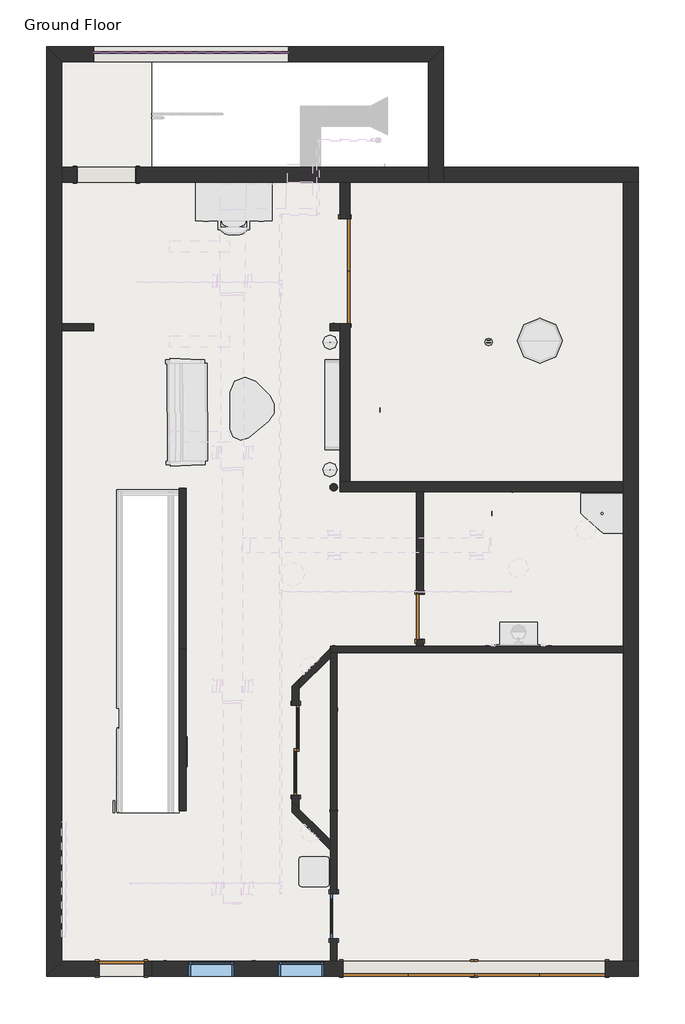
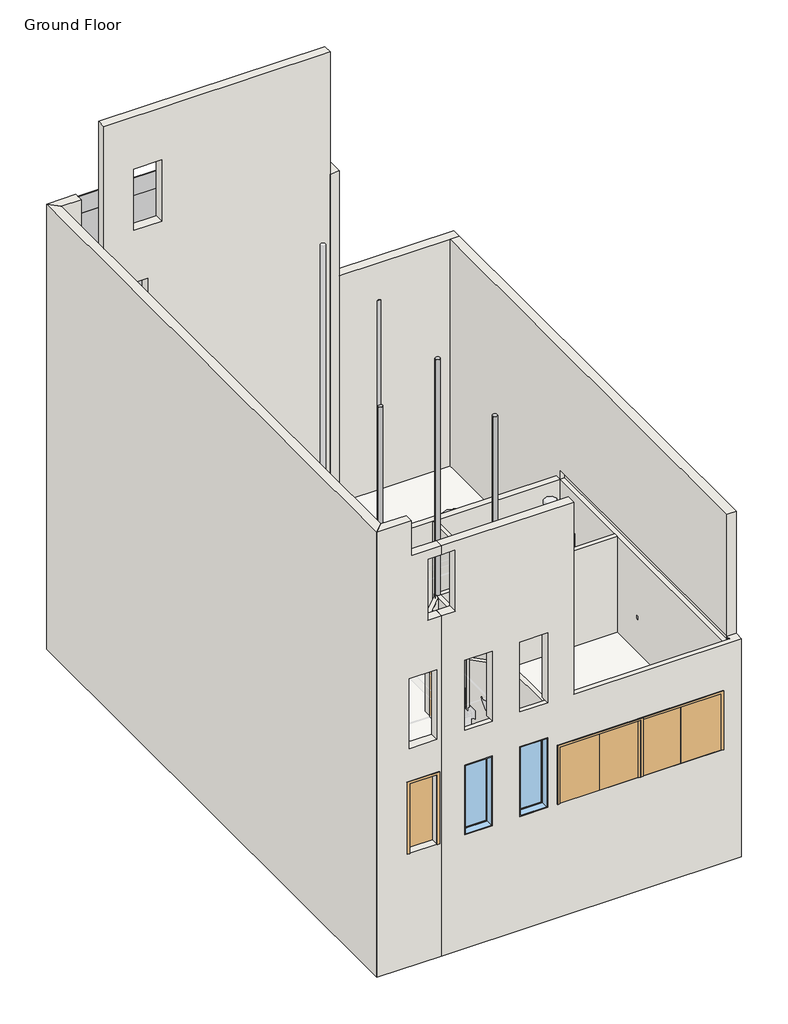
# One storey, part 1 of 4: 21 walls, 12 plates, 6 doors, 3 columns, 3 windows, 1 slab.
"""IFC4 building model written with IfcOpenShell, lengths in millimetres."""

from ifc_helpers import new_model, si_unit, frame, origin, origin_with_axes, place, context, project, spatial, polyline, circle_curve, outline, extrude, faceted_brep, transform, mapped, element, save
from ifc_brep_helpers import plane_surface, cylinder_surface, advanced_brep
from components import double_flush_garage_doors_196828e7, double_flush_garden_door_1ae05451, door_9814c99b, single_flush_front_door_b84d2d09, door_a33c1234, system_panel_system_panel_b21aad5f, system_panel_system_panel_e008ddc8, system_panel_system_panel_63189bcd, system_panel_system_panel_58b53a08, window_9a11fba4, window_57972af0, window_4364fc02

model = new_model("IFC4")

# Units and contexts
model_context = context("Model", 3, world=origin())
ifc_project = project(units=[si_unit("LENGTHUNIT", "METRE", prefix="MILLI")], contexts=[model_context])

# Site, building, storey
site = spatial("IfcSite", under=ifc_project)
building = spatial("IfcBuilding", under=site)
storey = spatial("IfcBuildingStorey", under=building, Name="Ground Floor", Elevation=0.0)

# Columns
placement = place(None, origin())
element("IfcColumn", 1, ObjectType="Round Column : 06\" Diameter", at=placement, inside=storey, context=model_context, shape_type="AdvancedBrep", body=[
    advanced_brep(
    [(1126.1605983, 3000.0810017, 11582.4), (1070.1560388, 3024.609643, 11582.4), (1014.1514793, 3000.0810017, 11582.4), (1146.3560388, 2948.409643, 0.0), (993.9560388, 2948.409643, 0.0), (1070.1560388, 3024.609643, 0.0), (1126.1605983, 3000.0810017, 7924.8), (1146.3560388, 2948.409643, 7924.8), (993.9560388, 2948.409643, 7924.8), (1014.1514793, 3000.0810017, 7924.8)],
    [
        (0, 1, circle_curve(frame((1070.1560388, 2948.409643, 11582.4), z_axis=(0.0, 0.0, 1.0), x_axis=(1.0, 0.0, 0.0)), 76.2)),
        (1, 2, circle_curve(frame((1070.1560388, 2948.409643, 11582.4), z_axis=(0.0, 0.0, 1.0), x_axis=(1.0, 0.0, 0.0)), 76.2)),
        (2, 0),
        (3, 4, circle_curve(frame((1070.1560388, 2948.409643, 0.0), z_axis=(0.0, 0.0, -1.0), x_axis=(1.0, 0.0, 0.0)), 76.2)),
        (4, 5, circle_curve(frame((1070.1560388, 2948.409643, 0.0), z_axis=(0.0, 0.0, -1.0), x_axis=(1.0, 0.0, 0.0)), 76.2)),
        (5, 3, circle_curve(frame((1070.1560388, 2948.409643, 0.0), z_axis=(0.0, 0.0, -1.0), x_axis=(1.0, 0.0, 0.0)), 76.2)),
        (5, 1),
        (0, 6),
        (6, 7, circle_curve(frame((1070.1560388, 2948.409643, 7924.8), z_axis=(0.0, 0.0, -1.0), x_axis=(1.0, 0.0, 0.0)), 76.2)),
        (7, 3),
        (4, 8),
        (8, 9, circle_curve(frame((1070.1560388, 2948.409643, 7924.8), z_axis=(0.0, 0.0, -1.0), x_axis=(1.0, 0.0, 0.0)), 76.2)),
        (9, 2),
        (7, 8, circle_curve(frame((1070.1560388, 2948.409643, 7924.8), z_axis=(0.0, 0.0, -1.0), x_axis=(1.0, 0.0, 0.0)), 76.2)),
        (9, 6),
    ],
    [
        plane_surface(frame((1146.3560388, 2948.409643, 11582.4), z_axis=(0.0, 0.0, 1.0), x_axis=(0.0, 1.0, 0.0))),
        plane_surface(frame((1146.3560388, 2948.409643, 0.0), z_axis=(0.0, 0.0, -1.0), x_axis=(0.0, -1.0, 0.0))),
        cylinder_surface(frame((1070.1560388, 2948.409643, 0.0), z_axis=(0.0, 0.0, 1.0), x_axis=(1.0, 0.0, 0.0)), 76.2),
        plane_surface(frame((-4460.5633563, 3000.0810017, 7924.8), z_axis=(0.0, -1.0, 0.0), x_axis=(-1.0, 0.0, 0.0))),
        plane_surface(frame((-2819.1604947, 2860.3810017, 7924.8), z_axis=(0.0, 0.0, 1.0), x_axis=(0.0, 1.0, 0.0))),
    ],
    [
        (0, [[1, 2, 3]]),
        (1, [[4, 5, 6]]),
        (2, [[-6, 7, -1, 8, 9, 10]]),
        (2, [[-5, 11, 12, 13, -2, -7]]),
        (2, [[-4, -10, 14, -11]]),
        (3, [[15, -8, -3, -13]]),
        (4, [[-15, -12, -14, -9]]),
    ],
),
])
element("IfcColumn", 2, ObjectType="Round Column : 06\" Diameter", at=placement, inside=storey, context=model_context, shape_type="AdvancedBrep", body=[
    advanced_brep(
    [(1146.3560388, -3623.840357, 11582.4), (1070.1560388, -3547.640357, 11582.4), (993.9560388, -3623.840357, 11582.4), (1140.0060388, -3593.3868269, 0.0), (1146.3560388, -3623.840357, 0.0), (1140.0060388, -3654.2938872, 0.0), (1140.0060388, -3623.840357, 0.0), (1140.0060388, -3593.3868269, 3352.8), (1070.1560388, -3547.640357, 3352.8), (1000.3060388, -3593.3868269, 3352.8), (1000.3060388, -3593.3868269, 0.0), (993.9560388, -3623.840357, 0.0), (1000.3060388, -3654.2938872, 0.0), (1000.3060388, -3654.2938872, 3352.8), (1140.0060388, -3654.2938872, 3352.8), (1140.0060388, -3623.840357, 3352.8), (1000.3060388, -3623.840357, 3352.8), (1000.3060388, -3623.840357, 0.0)],
    [
        (0, 1, circle_curve(frame((1070.1560388, -3623.840357, 11582.4), z_axis=(0.0, 0.0, 1.0), x_axis=(1.0, 0.0, 0.0)), 76.2)),
        (1, 2, circle_curve(frame((1070.1560388, -3623.840357, 11582.4), z_axis=(0.0, 0.0, 1.0), x_axis=(1.0, 0.0, 0.0)), 76.2)),
        (2, 0, circle_curve(frame((1070.1560388, -3623.840357, 11582.4), z_axis=(0.0, 0.0, 1.0), x_axis=(1.0, 0.0, 0.0)), 76.2)),
        (3, 4, circle_curve(frame((1070.1560388, -3623.840357, 0.0), z_axis=(0.0, 0.0, -1.0), x_axis=(1.0, 0.0, 0.0)), 76.2)),
        (4, 5, circle_curve(frame((1070.1560388, -3623.840357, 0.0), z_axis=(0.0, 0.0, -1.0), x_axis=(1.0, 0.0, 0.0)), 76.2)),
        (5, 6),
        (6, 3),
        (0, 4),
        (3, 7),
        (7, 8, circle_curve(frame((1070.1560388, -3623.840357, 3352.8), z_axis=(0.0, 0.0, 1.0), x_axis=(1.0, 0.0, 0.0)), 76.2)),
        (8, 1),
        (8, 9, circle_curve(frame((1070.1560388, -3623.840357, 3352.8), z_axis=(0.0, 0.0, 1.0), x_axis=(1.0, 0.0, 0.0)), 76.2)),
        (9, 10),
        (10, 11, circle_curve(frame((1070.1560388, -3623.840357, 0.0), z_axis=(0.0, 0.0, 1.0), x_axis=(1.0, 0.0, 0.0)), 76.2)),
        (11, 2),
        (11, 12, circle_curve(frame((1070.1560388, -3623.840357, 0.0), z_axis=(0.0, 0.0, 1.0), x_axis=(1.0, 0.0, 0.0)), 76.2)),
        (12, 13),
        (13, 14, circle_curve(frame((1070.1560388, -3623.840357, 3352.8), z_axis=(0.0, 0.0, 1.0), x_axis=(1.0, 0.0, 0.0)), 76.2)),
        (14, 5),
        (15, 7),
        (6, 15),
        (9, 16),
        (16, 17),
        (17, 10),
        (15, 16),
        (14, 15),
        (16, 13),
        (12, 17),
    ],
    [
        plane_surface(frame((1146.3560388, -3623.840357, 11582.4), z_axis=(0.0, 0.0, 1.0), x_axis=(0.0, 1.0, 0.0))),
        plane_surface(frame((1146.3560388, -3623.840357, 0.0), z_axis=(0.0, 0.0, -1.0), x_axis=(0.0, -1.0, 0.0))),
        cylinder_surface(frame((1070.1560388, -3623.840357, 0.0), z_axis=(0.0, 0.0, 1.0), x_axis=(1.0, 0.0, 0.0)), 76.2),
        plane_surface(frame((1140.0060388, -3623.840357, 0.0), z_axis=(-1.0, 0.0, 0.0), x_axis=(0.0, 1.0, 0.0))),
        plane_surface(frame((1000.3060388, -3623.840357, 0.0), z_axis=(1.0, 0.0, 0.0), x_axis=(0.0, -1.0, 0.0))),
        plane_surface(frame((-4619.4439612, 11603.459643, 3352.8), z_axis=(0.0, 0.0, -1.0), x_axis=(0.0, 1.0, 0.0))),
        plane_surface(frame((1140.0060388, -5757.440357, 0.0), z_axis=(-1.0, 0.0, 0.0), x_axis=(0.0, 1.0, 0.0))),
        plane_surface(frame((1000.3060388, -5757.440357, 0.0), z_axis=(1.0, 0.0, 0.0), x_axis=(0.0, -1.0, 0.0))),
    ],
    [
        (0, [[1, 2, 3]]),
        (1, [[4, 5, 6, 7]]),
        (2, [[-1, 8, -4, 9, 10, 11]]),
        (2, [[-2, -11, 12, 13, 14, 15]]),
        (2, [[-3, -15, 16, 17, 18, 19, -5, -8]]),
        (3, [[20, -9, -7, 21]]),
        (4, [[22, 23, 24, -13]]),
        (5, [[-20, 25, -22, -12, -10]]),
        (6, [[26, -21, -6, -19]]),
        (7, [[27, -17, 28, -23]]),
        (5, [[-26, -18, -27, -25]]),
        (1, [[-14, -24, -28, -16]]),
    ],
),
])
element("IfcColumn", 3, ObjectType="Round Column : 06\" Diameter", at=placement, inside=storey, context=model_context, shape_type="AdvancedBrep", body=[
    advanced_brep(
    [(1146.3560388, -347.240357, 11582.4), (1070.1560388, -271.040357, 11582.4), (993.9560388, -347.240357, 11582.4), (1039.7025086, -277.390357, 0.0), (1070.1560388, -271.040357, 0.0), (1100.609569, -277.390357, 0.0), (1146.3560388, -347.240357, 3352.8), (1100.609569, -277.390357, 3352.8), (1039.7025086, -277.390357, 3352.8), (1000.3060388, -316.7868269, 3352.8), (1000.3060388, -316.7868269, 0.0), (999.2307324, -319.3828461, 0.0), (999.2307324, -319.3828461, 3352.8), (993.9560388, -347.240357, 3352.8), (1000.3060388, -377.6938872, 3352.8), (1039.7025086, -417.090357, 3352.8), (1100.609569, -417.090357, 3352.8), (1000.3060388, -318.3075397, 3352.8), (1000.3060388, -318.3075397, 0.0)],
    [
        (0, 1, circle_curve(frame((1070.1560388, -347.240357, 11582.4), z_axis=(0.0, 0.0, 1.0), x_axis=(1.0, 0.0, 0.0)), 76.2)),
        (1, 2, circle_curve(frame((1070.1560388, -347.240357, 11582.4), z_axis=(0.0, 0.0, 1.0), x_axis=(1.0, 0.0, 0.0)), 76.2)),
        (2, 0, circle_curve(frame((1070.1560388, -347.240357, 11582.4), z_axis=(0.0, 0.0, 1.0), x_axis=(1.0, 0.0, 0.0)), 76.2)),
        (3, 4, circle_curve(frame((1070.1560388, -347.240357, 0.0), z_axis=(0.0, 0.0, -1.0), x_axis=(1.0, 0.0, 0.0)), 76.2)),
        (4, 5, circle_curve(frame((1070.1560388, -347.240357, 0.0), z_axis=(0.0, 0.0, -1.0), x_axis=(1.0, 0.0, 0.0)), 76.2)),
        (5, 3),
        (0, 6),
        (6, 7, circle_curve(frame((1070.1560388, -347.240357, 3352.8), z_axis=(0.0, 0.0, 1.0), x_axis=(1.0, 0.0, 0.0)), 76.2)),
        (7, 5),
        (4, 1),
        (3, 8),
        (8, 9, circle_curve(frame((1070.1560388, -347.240357, 3352.8), z_axis=(0.0, 0.0, 1.0), x_axis=(1.0, 0.0, 0.0)), 76.2)),
        (9, 10),
        (10, 11, circle_curve(frame((1070.1560388, -347.240357, 0.0), z_axis=(0.0, 0.0, 1.0), x_axis=(1.0, 0.0, 0.0)), 76.2)),
        (11, 12),
        (12, 13, circle_curve(frame((1070.1560388, -347.240357, 3352.8), z_axis=(0.0, 0.0, 1.0), x_axis=(1.0, 0.0, 0.0)), 76.2)),
        (13, 2),
        (13, 14, circle_curve(frame((1070.1560388, -347.240357, 3352.8), z_axis=(0.0, 0.0, 1.0), x_axis=(1.0, 0.0, 0.0)), 76.2)),
        (14, 15, circle_curve(frame((1070.1560388, -347.240357, 3352.8), z_axis=(0.0, 0.0, 1.0), x_axis=(1.0, 0.0, 0.0)), 76.2)),
        (15, 16, circle_curve(frame((1070.1560388, -347.240357, 3352.8), z_axis=(0.0, 0.0, 1.0), x_axis=(1.0, 0.0, 0.0)), 76.2)),
        (16, 6, circle_curve(frame((1070.1560388, -347.240357, 3352.8), z_axis=(0.0, 0.0, 1.0), x_axis=(1.0, 0.0, 0.0)), 76.2)),
        (7, 8),
        (9, 17),
        (17, 18),
        (18, 10),
        (16, 15),
        (14, 17),
        (18, 11),
        (17, 12),
    ],
    [
        plane_surface(frame((1146.3560388, -347.240357, 11582.4), z_axis=(0.0, 0.0, 1.0), x_axis=(0.0, 1.0, 0.0))),
        plane_surface(frame((1146.3560388, -347.240357, 0.0), z_axis=(0.0, 0.0, -1.0), x_axis=(0.0, -1.0, 0.0))),
        cylinder_surface(frame((1070.1560388, -347.240357, 0.0), z_axis=(0.0, 0.0, 1.0), x_axis=(1.0, 0.0, 0.0)), 76.2),
        plane_surface(frame((7115.3560388, -277.390357, 0.0), z_axis=(0.0, -1.0, 0.0), x_axis=(-1.0, 0.0, 0.0))),
        plane_surface(frame((1000.3060388, -3623.840357, 0.0), z_axis=(1.0, 0.0, 0.0), x_axis=(0.0, -1.0, 0.0))),
        plane_surface(frame((-4619.4439612, 11603.459643, 3352.8), z_axis=(0.0, 0.0, -1.0), x_axis=(0.0, 1.0, 0.0))),
        plane_surface(frame((1020.7646301, -297.8489484, 0.0), z_axis=(0.7071067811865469, -0.7071067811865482, 0.0), x_axis=(-0.7071067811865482, -0.7071067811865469, 0.0))),
    ],
    [
        (0, [[1, 2, 3]]),
        (1, [[4, 5, 6]]),
        (2, [[-1, 7, 8, 9, -5, 10]]),
        (2, [[-2, -10, -4, 11, 12, 13, 14, 15, 16, 17]]),
        (2, [[-3, -17, 18, 19, 20, 21, -7]]),
        (3, [[22, -11, -6, -9]]),
        (4, [[-13, 23, 24, 25]]),
        (5, [[-22, -8, -21, 26, -19, 27, -23, -12]]),
        (1, [[-14, -25, 28]]),
        (5, [[-20, -26]]),
        (6, [[29, -15, -28, -24]]),
        (5, [[-29, -27, -18, -16]]),
    ],
),
])

# Doors
double_flush_garage_doors_shape = double_flush_garage_doors_196828e7(model_context)
element("IfcDoor", 4, ObjectType="Double-Flush : Garage Doors", at=placement, inside=storey, context=model_context, shape_type="MappedRepresentation", body=[
    mapped(double_flush_garage_doors_shape, transform((2594.1560388, -6836.940357, 0.0), x_axis=(1.0, 0.0, 0.0), y_axis=(0.0, 1.0, 0.0), z_axis=(0.0, 0.0, 1.0))),
])
element("IfcDoor", 5, ObjectType="Double-Flush : Garage Doors", at=placement, inside=storey, context=model_context, shape_type="MappedRepresentation", body=[
    mapped(double_flush_garage_doors_shape, transform((5261.1560388, -6836.940357, 0.0), x_axis=(1.0, 0.0, 0.0), y_axis=(0.0, 1.0, 0.0), z_axis=(0.0, 0.0, 1.0))),
])
double_flush_garden_door_shape = double_flush_garden_door_1ae05451(model_context)
element("IfcDoor", 6, ObjectType="Double-Flush : Garden Door", at=placement, inside=storey, context=model_context, shape_type="MappedRepresentation", body=[
    mapped(double_flush_garden_door_shape, transform((1298.7560388, 7342.609643, 0.0), x_axis=(0.0, -1.0, 0.0), y_axis=(1.0, 0.0, 0.0), z_axis=(0.0, 0.0, 1.0))),
])
door_shape = door_9814c99b(model_context)
element("IfcDoor", 7, ObjectType="Single-Flush : 36\" x 84\"", at=placement, inside=storey, context=model_context, shape_type="MappedRepresentation", body=[
    mapped(door_shape, transform((2822.7560388, 313.159643, 0.0), x_axis=(0.0, -1.0, 0.0), y_axis=(1.0, 0.0, 0.0), z_axis=(0.0, 0.0, 1.0))),
])
single_flush_front_door_shape = single_flush_front_door_b84d2d09(model_context)
element("IfcDoor", 8, ObjectType="Single-Flush : Front Door", at=placement, inside=storey, context=model_context, shape_type="MappedRepresentation", body=[
    mapped(single_flush_front_door_shape, transform((-3247.8439612, -6836.940357, 0.0), x_axis=(-1.0, 0.0, 0.0), y_axis=(0.0, -1.0, 0.0), z_axis=(0.0, 0.0, 1.0))),
])
door_2_shape = door_a33c1234(model_context)
element("IfcDoor", 9, ObjectType="Sliding-2 panel : 72\" x 84\"", at=placement, inside=storey, context=model_context, shape_type="MappedRepresentation", body=[
    mapped(door_2_shape, transform((168.4560388, -2392.1148371, 0.0), x_axis=(0.0, -1.0, 0.0), y_axis=(1.0, 0.0, 0.0), z_axis=(0.0, 0.0, 1.0))),
])

# Plates
system_panel_system_panel_shape = system_panel_system_panel_b21aad5f(model_context)
element("IfcPlate", 10, ObjectType="System Panel : System Panel", at=placement, inside=storey, context=model_context, shape_type="MappedRepresentation", body=[
    mapped(system_panel_system_panel_shape, transform((-2893.6569983, 11755.859643, 0.0), x_axis=(1.0, 0.0, 0.0), y_axis=(0.0, 1.0, 0.0), z_axis=(0.0, 0.0, 1.0))),
])
element("IfcPlate", 11, ObjectType="System Panel : System Panel", at=placement, inside=storey, context=model_context, shape_type="MappedRepresentation", body=[
    mapped(system_panel_system_panel_shape, transform((-1064.8569983, 11755.859643, 0.0), x_axis=(1.0, 0.0, 0.0), y_axis=(0.0, 1.0, 0.0), z_axis=(0.0, 0.0, 1.0))),
])
element("IfcPlate", 12, ObjectType="System Panel : System Panel", at=placement, inside=storey, context=model_context, shape_type="MappedRepresentation", body=[
    mapped(system_panel_system_panel_shape, transform((-2893.6569983, 11755.859643, 3657.6), x_axis=(1.0, 0.0, 0.0), y_axis=(0.0, 1.0, 0.0), z_axis=(0.0, 0.0, 1.0))),
])
element("IfcPlate", 13, ObjectType="System Panel : System Panel", at=placement, inside=storey, context=model_context, shape_type="MappedRepresentation", body=[
    mapped(system_panel_system_panel_shape, transform((-1064.8569983, 11755.859643, 3657.6), x_axis=(1.0, 0.0, 0.0), y_axis=(0.0, 1.0, 0.0), z_axis=(0.0, 0.0, 1.0))),
])
element("IfcPlate", 14, ObjectType="System Panel : System Panel", at=placement, inside=storey, context=model_context, shape_type="MappedRepresentation", body=[
    mapped(system_panel_system_panel_shape, transform((-2893.6569983, 11755.859643, 7315.2), x_axis=(1.0, 0.0, 0.0), y_axis=(0.0, 1.0, 0.0), z_axis=(0.0, 0.0, 1.0))),
])
element("IfcPlate", 15, ObjectType="System Panel : System Panel", at=placement, inside=storey, context=model_context, shape_type="MappedRepresentation", body=[
    mapped(system_panel_system_panel_shape, transform((-1064.8569983, 11755.859643, 7315.2), x_axis=(1.0, 0.0, 0.0), y_axis=(0.0, 1.0, 0.0), z_axis=(0.0, 0.0, 1.0))),
])
system_panel_system_panel_2_shape = system_panel_system_panel_e008ddc8(model_context)
element("IfcPlate", 16, ObjectType="System Panel : System Panel", at=placement, inside=storey, context=model_context, shape_type="MappedRepresentation", body=[
    mapped(system_panel_system_panel_2_shape, transform((1.9430017, 11755.859643, 0.0), x_axis=(1.0, 0.0, 0.0), y_axis=(0.0, 1.0, 0.0), z_axis=(0.0, 0.0, 1.0))),
])
element("IfcPlate", 17, ObjectType="System Panel : System Panel", at=placement, inside=storey, context=model_context, shape_type="MappedRepresentation", body=[
    mapped(system_panel_system_panel_2_shape, transform((1.9430017, 11755.859643, 3657.6), x_axis=(1.0, 0.0, 0.0), y_axis=(0.0, 1.0, 0.0), z_axis=(0.0, 0.0, 1.0))),
])
element("IfcPlate", 18, ObjectType="System Panel : System Panel", at=placement, inside=storey, context=model_context, shape_type="MappedRepresentation", body=[
    mapped(system_panel_system_panel_2_shape, transform((1.9430017, 11755.859643, 7315.2), x_axis=(1.0, 0.0, 0.0), y_axis=(0.0, 1.0, 0.0), z_axis=(0.0, 0.0, 1.0))),
])
system_panel_system_panel_3_shape = system_panel_system_panel_63189bcd(model_context)
element("IfcPlate", 19, ObjectType="System Panel : System Panel", at=placement, inside=storey, context=model_context, shape_type="MappedRepresentation", body=[
    mapped(system_panel_system_panel_3_shape, transform((-2893.6569983, 11755.859643, 10972.8), x_axis=(1.0, 0.0, 0.0), y_axis=(0.0, 1.0, 0.0), z_axis=(0.0, 0.0, 1.0))),
])
element("IfcPlate", 20, ObjectType="System Panel : System Panel", at=placement, inside=storey, context=model_context, shape_type="MappedRepresentation", body=[
    mapped(system_panel_system_panel_3_shape, transform((-1064.8569983, 11755.859643, 10972.8), x_axis=(1.0, 0.0, 0.0), y_axis=(0.0, 1.0, 0.0), z_axis=(0.0, 0.0, 1.0))),
])
system_panel_system_panel_4_shape = system_panel_system_panel_58b53a08(model_context)
element("IfcPlate", 21, ObjectType="System Panel : System Panel", at=placement, inside=storey, context=model_context, shape_type="MappedRepresentation", body=[
    mapped(system_panel_system_panel_4_shape, transform((1.9430017, 11755.859643, 10972.8), x_axis=(1.0, 0.0, 0.0), y_axis=(0.0, 1.0, 0.0), z_axis=(0.0, 0.0, 1.0))),
])

# Slab
element("IfcSlab", 22, ObjectType="Generic - 12\"", at=placement, inside=storey, context=model_context, shape_type="SweptSolid", body=[
    extrude(outline(polyline([(-4467.0439612, 11603.459643), (-2631.8939612, 11603.459643), (-2631.8939612, 9152.359643), (7115.3560388, 9152.359643), (7115.3560388, -6684.540357), (-2638.2439612, -6684.540357), (-4467.0439612, -6684.540357), (-4467.0439612, 11603.459643)]), holes=[polyline([(-2073.0939612, -3668.290357), (-2073.0939612, 2859.509643), (-3298.6439612, 2859.509643), (-3298.6439612, -3668.290357), (-2073.0939612, -3668.290357)])]), frame((0.0, 0.0, -304.8), z_axis=(0.0, 0.0, 1.0), x_axis=(1.0, 0.0, 0.0)), (0.0, 0.0, 1.0), 304.8),
])

# Walls
element("IfcWall", 23, ObjectType="Cast Concrete Wall 12\"", at=placement, inside=storey, context=model_context, shape_type="Brep", body=[
    faceted_brep([(7267.7560388, -6684.540357, -3962.4), (6962.9560388, -6684.540357, -3962.4), (-2638.2439612, -6684.540357, -3962.4), (-2638.2439612, -6684.540357, 3352.8), (1000.3060388, -6684.540357, 3352.8), (1140.0060388, -6684.540357, 3352.8), (6962.9560388, -6684.540357, 3352.8), (6962.9560388, -6684.540357, 3657.6), (7267.7560388, -6684.540357, 3657.6), (1260.6560388, -6684.540357, 1981.2), (1260.6560388, -6684.540357, 0.0), (6594.6560388, -6684.540357, 0.0), (6594.6560388, -6684.540357, 1981.2), (-47.4439612, -6684.540357, 2438.4), (-47.4439612, -6684.540357, 0.0), (866.9560388, -6684.540357, 0.0), (866.9560388, -6684.540357, 2438.4), (-961.8439612, -6684.540357, 0.0), (-961.8439612, -6684.540357, 2438.4), (-1876.2439612, -6684.540357, 2438.4), (-1876.2439612, -6684.540357, 0.0), (-2638.2439612, -6684.540357, 10363.2), (1527.3560388, -6684.540357, 10363.2), (1730.5560388, -6684.540357, 10363.2), (1730.5560388, -6684.540357, 7924.8), (1730.5560388, -6684.540357, 3657.6), (1527.3560388, -6684.540357, 3657.6), (866.9560388, -6684.540357, 3657.6), (866.9560388, -6684.540357, 6096.0), (-47.4439612, -6684.540357, 6096.0), (-47.4439612, -6684.540357, 3657.6), (-961.8439612, -6684.540357, 3657.6), (-961.8439612, -6684.540357, 6096.0), (-1876.2439612, -6684.540357, 6096.0), (-1876.2439612, -6684.540357, 3657.6), (-2638.2439612, -6684.540357, 3657.6), (-2638.2439612, -6684.540357, 7924.8), (-2181.0439612, -6684.540357, 7924.8), (-2181.0439612, -6684.540357, 10058.4), (-2638.2439612, -6684.540357, 10058.4), (-2638.2439612, -6989.340357, -3962.4), (7267.7560388, -6989.340357, -3962.4), (7267.7560388, -6989.340357, 3657.6), (1730.5560388, -6989.340357, 3657.6), (1730.5560388, -6989.340357, 10363.2), (-2638.2439612, -6989.340357, 10363.2), (-2638.2439612, -6989.340357, 10058.4), (-2181.0439612, -6989.340357, 10058.4), (-2181.0439612, -6989.340357, 7924.8), (-2638.2439612, -6989.340357, 7924.8), (1260.6560388, -6989.340357, 0.0), (1260.6560388, -6989.340357, 1981.2), (6594.6560388, -6989.340357, 1981.2), (6594.6560388, -6989.340357, 0.0), (-47.4439612, -6989.340357, 0.0), (-47.4439612, -6989.340357, 2438.4), (866.9560388, -6989.340357, 2438.4), (866.9560388, -6989.340357, 0.0), (-961.8439612, -6989.340357, 2438.4), (-961.8439612, -6989.340357, 0.0), (-1876.2439612, -6989.340357, 0.0), (-1876.2439612, -6989.340357, 2438.4), (-961.8439612, -6989.340357, 6096.0), (-961.8439612, -6989.340357, 3657.6), (-1876.2439612, -6989.340357, 3657.6), (-1876.2439612, -6989.340357, 6096.0), (-47.4439612, -6989.340357, 3657.6), (-47.4439612, -6989.340357, 6096.0), (866.9560388, -6989.340357, 6096.0), (866.9560388, -6989.340357, 3657.6), (-2638.2439612, -6836.940357, 3657.6), (-2638.2439612, -6836.940357, 3352.8), (6962.9560388, -6741.690357, 3657.6), (6962.9560388, -6836.940357, 3657.6), (1730.5560388, -6836.940357, 3657.6), (-961.8439612, -6836.940357, 3657.6), (-1876.2439612, -6836.940357, 3657.6), (-47.4439612, -6836.940357, 3657.6), (866.9560388, -6836.940357, 3657.6), (6962.9560388, -6836.940357, 3352.8), (6962.9560388, -6741.690357, 3352.8), (1559.1060388, -6836.940357, 3352.8), (1559.1060388, -6836.940357, 3657.6)], [[[0, 1, 2, 3, 4, 5, 6, 7, 8], [9, 10, 11, 12], [13, 14, 15, 16], [17, 18, 19, 20]], [[21, 22, 23, 24, 25, 26, 27, 28, 29, 30, 31, 32, 33, 34, 35, 36, 37, 38, 39]], [[40, 41, 42, 43, 44, 45, 46, 47, 48, 49], [50, 51, 52, 53], [54, 55, 56, 57], [58, 59, 60, 61], [62, 63, 64, 65], [66, 67, 68, 69]], [[0, 8, 42, 41]], [[2, 1, 0, 41, 40]], [[2, 40, 49, 36, 35, 70, 71, 3]], [[45, 21, 39, 46]], [[23, 22, 21, 45, 44]], [[43, 42, 8, 7, 72, 73, 74]], [[23, 44, 43, 74, 25, 24]], [[51, 9, 12, 52]], [[10, 9, 51, 50]], [[10, 50, 53, 11]], [[11, 53, 52, 12]], [[48, 37, 36, 49]], [[38, 47, 46, 39]], [[47, 38, 37, 48]], [[14, 13, 55, 54]], [[15, 14, 54, 57]], [[16, 15, 57, 56]], [[13, 16, 56, 55]], [[59, 58, 18, 17]], [[60, 59, 17, 20]], [[61, 60, 20, 19]], [[58, 61, 19, 18]], [[63, 62, 32, 31, 75]], [[64, 63, 75, 76]], [[65, 64, 76, 34, 33]], [[62, 65, 33, 32]], [[30, 29, 67, 66, 77]], [[66, 69, 78, 77]], [[28, 27, 78, 69, 68]], [[29, 28, 68, 67]], [[79, 80, 6, 5, 4, 3, 71, 81]], [[74, 82, 78, 27, 26, 25]], [[77, 75, 31, 30]], [[76, 70, 35, 34]], [[80, 72, 7, 6]], [[80, 79, 73, 72]], [[79, 81, 82, 74, 73]], [[82, 81, 71, 70, 76, 75, 77, 78]]]),
])
element("IfcWall", 24, ObjectType="Cast Concrete Wall 12\"", at=placement, inside=storey, context=model_context, shape_type="Brep", body=[
    faceted_brep([(-4467.0439612, 11603.459643, -3962.4), (-4467.0439612, -6684.540357, -3962.4), (-4771.8439612, -6989.340357, -3962.4), (-4771.8439612, 11908.259643, -3962.4), (-4467.0439612, -6684.540357, 11582.4), (-4467.0439612, -38.7325454, 11582.4), (-4467.0439612, 100.9674546, 11582.4), (-4467.0439612, 11603.459643, 11582.4), (-4771.8439612, 11908.259643, 11582.4), (-4771.8439612, -6989.340357, 11582.4)], [[[0, 1, 2, 3]], [[4, 5, 6, 7, 8, 9]], [[1, 0, 7, 6, 5, 4]], [[2, 9, 8, 3]], [[1, 4, 9, 2]], [[7, 0, 3, 8]]]),
])
element("IfcWall", 25, ObjectType="Cast Concrete Wall 12\"", at=placement, inside=storey, context=model_context, shape_type="Brep", body=[
    faceted_brep([(-4467.0439612, 11603.459643, -3962.4), (3000.5560388, 11603.459643, -3962.4), (3000.5560388, 11603.459643, 11582.4), (1089.2060388, 11603.459643, 11582.4), (949.5060388, 11603.459643, 11582.4), (154.3430017, 11603.459643, 11582.4), (154.3430017, 11603.459643, 0.0), (-3808.0569983, 11603.459643, 0.0), (-3808.0569983, 11603.459643, 11582.4), (-4467.0439612, 11603.459643, 11582.4), (3305.3560388, 11908.259643, -3962.4), (-4771.8439612, 11908.259643, -3962.4), (-4771.8439612, 11908.259643, 11582.4), (-3808.0569983, 11908.259643, 11582.4), (-3808.0569983, 11908.259643, 0.0), (154.3430017, 11908.259643, 0.0), (154.3430017, 11908.259643, 11582.4), (3305.3560388, 11908.259643, 11582.4)], [[[0, 1, 2, 3, 4, 5, 6, 7, 8, 9]], [[10, 11, 12, 13, 14, 15, 16, 17]], [[1, 0, 11, 10]], [[2, 17, 16, 5, 4, 3]], [[12, 9, 8, 13]], [[2, 1, 10, 17]], [[0, 9, 12, 11]], [[7, 14, 13, 8]], [[15, 6, 5, 16]], [[14, 7, 6, 15]]]),
])
element("IfcWall", 26, ObjectType="Cast Concrete Wall 12\"", at=placement, inside=storey, context=model_context, shape_type="Brep", body=[
    faceted_brep([(3000.5560388, 11603.459643, -3962.4), (3000.5560388, 9152.359643, -3962.4), (3000.5560388, 9152.359643, -304.8), (3000.5560388, 9152.359643, 11582.4), (3000.5560388, 11603.459643, 11582.4), (3305.3560388, 11908.259643, -3962.4), (3305.3560388, 11908.259643, 11582.4), (3305.3560388, 9152.359643, 11582.4), (3305.3560388, 9152.359643, 7924.8), (3305.3560388, 9152.359643, -3962.4), (3305.3560388, 9457.159643, -3962.4)], [[[0, 1, 2, 3, 4]], [[5, 6, 7, 8, 9, 10]], [[1, 0, 5, 10, 9]], [[4, 3, 7, 6]], [[1, 9, 8, 7, 3, 2]], [[0, 4, 6, 5]]]),
])
element("IfcWall", 27, ObjectType="Cast Concrete Wall 12\"", at=placement, inside=storey, context=model_context, shape_type="Brep", body=[
    faceted_brep([(3305.3560388, 9152.359643, 7924.8), (3305.3560388, 9152.359643, -3962.4), (6962.9560388, 9152.359643, -3962.4), (7267.7560388, 9152.359643, -3962.4), (7267.7560388, 9152.359643, 7924.8), (6962.9560388, 9152.359643, 7924.8), (3305.3560388, 9457.159643, -3962.4), (3305.3560388, 9457.159643, 7924.8), (7267.7560388, 9457.159643, 7924.8), (7267.7560388, 9457.159643, -3962.4)], [[[0, 1, 2, 3, 4, 5]], [[6, 7, 8, 9]], [[3, 2, 1, 6, 9]], [[0, 5, 4, 8, 7]], [[4, 3, 9, 8]], [[0, 7, 6, 1]]]),
])
element("IfcWall", 28, ObjectType="Cast Concrete Wall 12\"", at=placement, inside=storey, context=model_context, shape_type="Brep", body=[
    faceted_brep([(6962.9560388, 9152.359643, -3962.4), (6962.9560388, -6684.540357, -3962.4), (6962.9560388, -6684.540357, 3352.8), (6962.9560388, -6684.540357, 3657.6), (6962.9560388, -6684.540357, 7924.8), (6962.9560388, 9152.359643, 7924.8), (6962.9560388, -6659.140357, 3352.8), (6962.9560388, -417.090357, 3352.8), (6962.9560388, -277.390357, 3352.8), (6962.9560388, 2859.509643, 3352.8), (6962.9560388, 2859.509643, 3657.6), (6962.9560388, -6659.140357, 3657.6), (7267.7560388, -6684.540357, -3962.4), (7267.7560388, 9152.359643, -3962.4), (7267.7560388, 9152.359643, 7924.8), (7267.7560388, -6684.540357, 7924.8), (7267.7560388, -6684.540357, 3657.6), (7115.3560388, -6659.140357, 3352.8), (7115.3560388, 2859.509643, 3352.8), (7115.3560388, -6659.140357, 3657.6), (7115.3560388, 2859.509643, 3657.6)], [[[0, 1, 2, 3, 4, 5], [6, 7, 8, 9, 10, 11]], [[12, 13, 14, 15, 16]], [[1, 0, 13, 12]], [[5, 4, 15, 14]], [[1, 12, 16, 15, 4, 3, 2]], [[0, 5, 14, 13]], [[17, 18, 9, 8, 7, 6]], [[19, 11, 10, 20]], [[18, 20, 10, 9]], [[18, 17, 19, 20]], [[17, 6, 11, 19]]]),
])
element("IfcWall", 29, ObjectType="Cast Concrete Wall 12\"", at=placement, inside=storey, context=model_context, shape_type="Brep", body=[
    faceted_brep([(-4467.0439612, 9457.159643, -304.8), (3000.5560388, 9457.159643, -304.8), (3000.5560388, 9152.359643, -304.8), (-4467.0439612, 9152.359643, -304.8), (3000.5560388, 9457.159643, 15849.6), (-4467.0439612, 9457.159643, 15849.6), (-4467.0439612, 9152.359643, 15849.6), (3000.5560388, 9152.359643, 15849.6), (-4467.0439612, 9457.159643, 11277.6), (3000.5560388, 9457.159643, 11277.6), (-4241.5604947, 9457.159643, 10058.4), (-4241.5604947, 9457.159643, 7924.8), (-3022.3604947, 9457.159643, 7924.8), (-3022.3604947, 9457.159643, 10058.4), (-4162.2439612, 9457.159643, 5791.2), (-4162.2439612, 9457.159643, 3657.6), (-2943.0439612, 9457.159643, 3657.6), (-2943.0439612, 9457.159643, 5791.2), (-2943.0439612, 9457.159643, 0.0), (-2943.0439612, 9457.159643, 2133.6), (-4162.2439612, 9457.159643, 2133.6), (-4162.2439612, 9457.159643, 0.0), (3000.5560388, 9457.159643, 11582.4), (-4467.0439612, 9457.159643, 11582.4), (-3476.4439612, 9457.159643, 11887.2), (-2562.0439612, 9457.159643, 11887.2), (-2562.0439612, 9457.159643, 14020.8), (-3476.4439612, 9457.159643, 14020.8), (3000.5560388, 9152.359643, 11582.4), (-4467.0439612, 9152.359643, 11582.4), (-2562.0439612, 9152.359643, 11887.2), (-3476.4439612, 9152.359643, 11887.2), (-3476.4439612, 9152.359643, 14020.8), (-2562.0439612, 9152.359643, 14020.8), (-4241.5604947, 9152.359643, 7924.8), (-4241.5604947, 9152.359643, 10058.4), (-3022.3604947, 9152.359643, 10058.4), (-3022.3604947, 9152.359643, 7924.8), (-4162.2439612, 9152.359643, 3657.6), (-4162.2439612, 9152.359643, 5791.2), (-2943.0439612, 9152.359643, 5791.2), (-2943.0439612, 9152.359643, 3657.6), (-2943.0439612, 9152.359643, 2133.6), (-2943.0439612, 9152.359643, 0.0), (-4162.2439612, 9152.359643, 0.0), (-4162.2439612, 9152.359643, 2133.6), (3000.5560388, 9304.759643, 11277.6), (3000.5560388, 9304.759643, 11582.4), (-4467.0439612, 9304.759643, 11582.4), (-4467.0439612, 9304.759643, 11277.6)], [[[0, 1, 2, 3]], [[4, 5, 6, 7]], [[1, 0, 8, 9], [10, 11, 12, 13], [14, 15, 16, 17], [18, 19, 20, 21]], [[5, 4, 22, 23], [24, 25, 26, 27]], [[3, 2, 28, 7, 6, 29], [30, 31, 32, 33], [34, 35, 36, 37], [38, 39, 40, 41], [42, 43, 44, 45]], [[31, 30, 25, 24]], [[32, 31, 24, 27]], [[33, 32, 27, 26]], [[30, 33, 26, 25]], [[2, 1, 9, 46, 47, 22, 4, 7, 28]], [[0, 3, 29, 6, 5, 23, 48, 49, 8]], [[11, 10, 35, 34]], [[12, 11, 34, 37]], [[13, 12, 37, 36]], [[10, 13, 36, 35]], [[15, 14, 39, 38]], [[16, 15, 38, 41]], [[17, 16, 41, 40]], [[14, 17, 40, 39]], [[43, 42, 19, 18]], [[44, 43, 18, 21]], [[45, 44, 21, 20]], [[42, 45, 20, 19]], [[49, 46, 9, 8]], [[47, 48, 23, 22]], [[46, 49, 48, 47]]]),
])
element("IfcWall", 30, ObjectType="Cast Concrete Wall 12\"", at=placement, inside=storey, context=model_context, shape_type="Brep", body=[
    faceted_brep([(-2638.2439612, -6684.540357, -3962.4), (-4467.0439612, -6684.540357, -3962.4), (-4467.0439612, -6684.540357, 11582.4), (-3628.8439612, -6684.540357, 11582.4), (-3628.8439612, -6684.540357, 10363.2), (-2638.2439612, -6684.540357, 10363.2), (-2638.2439612, -6684.540357, 10058.4), (-3095.4439612, -6684.540357, 10058.4), (-3095.4439612, -6684.540357, 7924.8), (-2638.2439612, -6684.540357, 7924.8), (-2638.2439612, -6684.540357, 3657.6), (-2638.2439612, -6684.540357, 3352.8), (-3705.0439612, -6684.540357, 3657.6), (-2790.6439612, -6684.540357, 3657.6), (-2790.6439612, -6684.540357, 6096.0), (-3705.0439612, -6684.540357, 6096.0), (-3705.0439612, -6684.540357, 0.0), (-2790.6439612, -6684.540357, 0.0), (-2790.6439612, -6684.540357, 2438.4), (-3705.0439612, -6684.540357, 2438.4), (-4771.8439612, -6989.340357, -3962.4), (-2638.2439612, -6989.340357, -3962.4), (-2638.2439612, -6989.340357, 7924.8), (-3095.4439612, -6989.340357, 7924.8), (-3095.4439612, -6989.340357, 10058.4), (-2638.2439612, -6989.340357, 10058.4), (-2638.2439612, -6989.340357, 10363.2), (-3628.8439612, -6989.340357, 10363.2), (-3628.8439612, -6989.340357, 11582.4), (-4771.8439612, -6989.340357, 11582.4), (-2790.6439612, -6989.340357, 3657.6), (-3705.0439612, -6989.340357, 3657.6), (-3705.0439612, -6989.340357, 6096.0), (-2790.6439612, -6989.340357, 6096.0), (-2790.6439612, -6989.340357, 0.0), (-3705.0439612, -6989.340357, 0.0), (-3705.0439612, -6989.340357, 2438.4), (-2790.6439612, -6989.340357, 2438.4)], [[[0, 1, 2, 3, 4, 5, 6, 7, 8, 9, 10, 11], [12, 13, 14, 15], [16, 17, 18, 19]], [[20, 21, 22, 23, 24, 25, 26, 27, 28, 29], [30, 31, 32, 33], [34, 35, 36, 37]], [[2, 1, 20, 29]], [[1, 0, 21, 20]], [[3, 2, 29, 28]], [[21, 0, 11, 10, 9, 22]], [[5, 26, 25, 6]], [[4, 3, 28, 27]], [[5, 4, 27, 26]], [[8, 23, 22, 9]], [[23, 8, 7, 24]], [[24, 7, 6, 25]], [[13, 30, 33, 14]], [[30, 13, 12, 31]], [[31, 12, 15, 32]], [[32, 15, 14, 33]], [[34, 17, 16, 35]], [[35, 16, 19, 36]], [[36, 19, 18, 37]], [[17, 34, 37, 18]]]),
])
element("IfcWall", 31, ObjectType="Generic - 8\"", at=placement, inside=storey, context=model_context, shape_type="Brep", body=[
    faceted_brep([(1197.1560388, 3062.709643, 0.0), (1197.1560388, 6136.109643, 0.0), (1197.1560388, 6275.809643, 0.0), (1400.3560388, 6275.809643, 0.0), (1400.3560388, 3062.709643, 0.0), (1197.1560388, 8409.409643, 0.0), (1197.1560388, 9152.359643, 0.0), (1400.3560388, 9152.359643, 0.0), (1400.3560388, 8409.409643, 0.0), (1197.1560388, 6275.809643, 1981.2), (1197.1560388, 3062.709643, 3352.8), (1197.1560388, 6136.109643, 3352.8), (1197.1560388, 6275.809643, 3352.8), (1197.1560388, 9152.359643, 3352.8), (1197.1560388, 8409.409643, 1981.2), (1400.3560388, 6275.809643, 1981.2), (1400.3560388, 8409.409643, 1981.2), (1400.3560388, 9152.359643, 3352.8), (1400.3560388, 3062.709643, 3352.8)], [[[0, 1, 2, 3, 4]], [[5, 6, 7, 8]], [[9, 2, 1, 0, 10, 11, 12, 13, 6, 5, 14]], [[4, 3, 15, 16, 8, 7, 17, 18]], [[10, 0, 4, 18]], [[13, 12, 11, 10, 18, 17]], [[6, 13, 17, 7]], [[15, 3, 2, 9]], [[16, 15, 9, 14]], [[8, 16, 14, 5]]]),
])
element("IfcWall", 32, ObjectType="Generic - 8\"", at=placement, inside=storey, context=model_context, shape_type="Brep", body=[
    faceted_brep([(1197.1560388, 2859.509643, 0.0), (2752.9060388, 2859.509643, 0.0), (2892.6060388, 2859.509643, 0.0), (6962.9560388, 2859.509643, 0.0), (6962.9560388, 2859.509643, 3352.8), (2892.6060388, 2859.509643, 3352.8), (2752.9060388, 2859.509643, 3352.8), (1559.1060388, 2859.509643, 3352.8), (1197.1560388, 2859.509643, 3352.8), (1197.1560388, 3062.709643, 0.0), (1197.1560388, 3062.709643, 3352.8), (1400.3560388, 3062.709643, 3352.8), (1559.1060388, 3062.709643, 3352.8), (6962.9560388, 3062.709643, 3352.8), (6962.9560388, 3062.709643, 0.0), (1400.3560388, 3062.709643, 0.0)], [[[0, 1, 2, 3, 4, 5, 6, 7, 8]], [[9, 10, 11, 12, 13, 14, 15]], [[3, 2, 1, 0, 9, 15, 14]], [[0, 8, 10, 9]], [[4, 3, 14, 13]], [[7, 6, 5, 4, 13, 12]], [[8, 7, 12, 11, 10]]]),
])
element("IfcWall", 33, ObjectType="Interior - 5 1/2\" Partition (1-hr)", at=placement, inside=storey, context=model_context, shape_type="Brep", body=[
    faceted_brep([(1140.0060388, -3623.840357, 0.0), (1140.0060388, -3593.3868269, 0.0), (1140.0060388, -417.090357, 0.0), (1140.0060388, -417.090357, 3352.8), (1140.0060388, -3593.3868269, 3352.8), (1140.0060388, -3623.840357, 3352.8), (1000.3060388, -3623.840357, 0.0), (1000.3060388, -3623.840357, 3352.8), (1000.3060388, -3593.3868269, 3352.8), (1000.3060388, -515.8731744, 3352.8), (1000.3060388, -417.090357, 3352.8), (1000.3060388, -417.090357, 0.0), (1000.3060388, -515.8731744, 0.0), (1000.3060388, -3593.3868269, 0.0)], [[[0, 1, 2, 3, 4, 5]], [[6, 7, 8, 9, 10, 11, 12, 13]], [[2, 1, 0, 6, 13, 12, 11]], [[0, 5, 7, 6]], [[3, 2, 11, 10]], [[5, 4, 3, 10, 9, 8, 7]]]),
])
element("IfcWall", 34, ObjectType="Interior - 5 1/2\" Partition (1-hr)", at=placement, inside=storey, context=model_context, shape_type="Brep", body=[
    faceted_brep([(993.9560388, 6136.109643, 0.0), (1039.7025086, 6136.109643, 0.0), (1100.609569, 6136.109643, 0.0), (1197.1560388, 6136.109643, 0.0), (1197.1560388, 6136.109643, 3352.8), (1100.609569, 6136.109643, 3352.8), (1039.7025086, 6136.109643, 3352.8), (993.9560388, 6136.109643, 3352.8), (993.9560388, 6275.809643, 0.0), (993.9560388, 6275.809643, 3352.8), (1039.7025086, 6275.809643, 3352.8), (1100.609569, 6275.809643, 3352.8), (1197.1560388, 6275.809643, 3352.8), (1197.1560388, 6275.809643, 0.0), (1100.609569, 6275.809643, 0.0), (1039.7025086, 6275.809643, 0.0)], [[[0, 1, 2, 3, 4, 5, 6, 7]], [[8, 9, 10, 11, 12, 13, 14, 15]], [[3, 2, 1, 0, 8, 15, 14, 13]], [[0, 7, 9, 8]], [[4, 3, 13, 12]], [[7, 6, 5, 4, 12, 11, 10, 9]]]),
])
element("IfcWall", 35, ObjectType="Interior - 5 1/2\" Partition (1-hr)", at=placement, inside=storey, context=model_context, shape_type="SweptSolid", body=[
    extrude(outline(polyline([(-4467.0439612, 6272.5766583), (-3808.0569983, 6272.5766583), (-3808.0569983, 6132.8766583), (-4467.0439612, 6132.8766583), (-4467.0439612, 6272.5766583)])), origin_with_axes(), (0.0, 0.0, 1.0), 3352.8),
])
element("IfcWall", 36, ObjectType="Interior - 5 1/2\" Partition (1-hr)", at=placement, inside=storey, context=model_context, shape_type="SweptSolid", body=[
    extrude(outline(polyline([(-2073.0939612, -347.240357), (-2073.0939612, 2929.359643), (-1933.3939612, 2929.359643), (-1933.3939612, -347.240357), (-2073.0939612, -347.240357)])), origin_with_axes(), (0.0, 0.0, 1.0), 3352.8),
])
element("IfcWall", 37, ObjectType="Interior - 5 1/2\" Partition (1-hr)", at=placement, inside=storey, context=model_context, shape_type="SweptSolid", body=[
    extrude(outline(polyline([(-2073.0939612, -3623.840357), (-2073.0939612, -347.240357), (-1933.3939612, -347.240357), (-1933.3939612, -3623.840357), (-2073.0939612, -3623.840357)])), origin_with_axes(), (0.0, 0.0, 1.0), 3352.8),
])
element("IfcWall", 38, ObjectType="Interior - 5 1/2\" Partition (1-hr)", at=placement, inside=storey, context=model_context, shape_type="Brep", body=[
    faceted_brep([(1140.0060388, -3623.840357, 3352.8), (1140.0060388, -3623.840357, 0.0), (1000.3060388, -3623.840357, 0.0), (1000.3060388, -3623.840357, 3352.8), (1000.3060388, -6684.540357, 0.0), (1000.3060388, -6227.340357, 0.0), (1140.0060388, -6227.340357, 0.0), (1140.0060388, -6684.540357, 0.0), (1000.3060388, -5312.940357, 0.0), (1000.3060388, -4427.4731744, 0.0), (1000.3060388, -4229.9075397, 0.0), (1000.3060388, -3654.2938872, 0.0), (1140.0060388, -3654.2938872, 0.0), (1140.0060388, -5312.940357, 0.0), (1140.0060388, -6227.340357, 2133.6), (1140.0060388, -5312.940357, 2133.6), (1140.0060388, -3654.2938872, 3352.8), (1140.0060388, -6684.540357, 3352.8), (1000.3060388, -6227.340357, 2133.6), (1000.3060388, -6684.540357, 3352.8), (1000.3060388, -4427.4731744, 3352.8), (1000.3060388, -4229.9075397, 3352.8), (1000.3060388, -3654.2938872, 3352.8), (1000.3060388, -5312.940357, 2133.6)], [[[0, 1, 2, 3]], [[4, 5, 6, 7]], [[8, 9, 10, 11, 2, 1, 12, 13]], [[7, 6, 14, 15, 13, 12, 1, 0, 16, 17]], [[18, 5, 4, 19, 20, 21, 22, 3, 2, 11, 10, 9, 8, 23]], [[7, 17, 19, 4]], [[17, 16, 0, 3, 22, 21, 20, 19]], [[14, 6, 5, 18]], [[15, 14, 18, 23]], [[13, 15, 23, 8]]]),
])
element("IfcWall", 39, ObjectType="Interior - 5 1/2\" Partition (1-hr)", at=placement, inside=storey, context=model_context, shape_type="Brep", body=[
    faceted_brep([(6962.9560388, -277.390357, 0.0), (2892.6060388, -277.390357, 0.0), (2752.9060388, -277.390357, 0.0), (1100.609569, -277.390357, 0.0), (1039.7025086, -277.390357, 0.0), (1000.3060388, -277.390357, 0.0), (1000.3060388, -277.390357, 3352.8), (1039.7025086, -277.390357, 3352.8), (1100.609569, -277.390357, 3352.8), (2752.9060388, -277.390357, 3352.8), (2892.6060388, -277.390357, 3352.8), (6962.9560388, -277.390357, 3352.8), (6962.9560388, -417.090357, 0.0), (6962.9560388, -417.090357, 3352.8), (1140.0060388, -417.090357, 3352.8), (1000.3060388, -417.090357, 3352.8), (1000.3060388, -417.090357, 0.0), (1140.0060388, -417.090357, 0.0), (1000.3060388, -318.3075397, 0.0), (1000.3060388, -316.7868269, 0.0), (1000.3060388, -318.3075397, 3352.8), (1000.3060388, -316.7868269, 3352.8)], [[[0, 1, 2, 3, 4, 5, 6, 7, 8, 9, 10, 11]], [[12, 13, 14, 15, 16, 17]], [[5, 4, 3, 2, 1, 0, 12, 17, 16, 18, 19]], [[6, 5, 19, 18, 16, 15, 20, 21]], [[0, 11, 13, 12]], [[11, 10, 9, 8, 7, 6, 21, 20, 15, 14, 13]]]),
])
element("IfcWall", 40, ObjectType="Interior - 5 1/2\" Partition (1-hr)", at=placement, inside=storey, context=model_context, shape_type="Brep", body=[
    faceted_brep([(1000.3060388, -4229.9075397, 0.0), (365.3060388, -3594.9075397, 0.0), (225.6060388, -3455.2075397, 0.0), (225.6060388, -3455.2075397, 3352.8), (365.3060388, -3594.9075397, 3352.8), (1000.3060388, -4229.9075397, 3352.8), (1000.3060388, -4427.4731744, 0.0), (1000.3060388, -4427.4731744, 3352.8), (225.6060388, -3652.7731744, 3352.8), (225.6060388, -3652.7731744, 0.0)], [[[0, 1, 2, 3, 4, 5]], [[6, 7, 8, 9]], [[2, 1, 0, 6, 9]], [[3, 2, 9, 8]], [[0, 5, 7, 6]], [[5, 4, 3, 8, 7]]]),
])
element("IfcWall", 41, ObjectType="Interior - 5 1/2\" Partition (1-hr)", at=placement, inside=storey, context=model_context, shape_type="Brep", body=[
    faceted_brep([(365.3060388, -3594.9075397, 0.0), (365.3060388, -3306.5148371, 0.0), (365.3060388, -3306.5148371, 2133.6), (365.3060388, -1477.7148371, 2133.6), (365.3060388, -1477.7148371, 0.0), (365.3060388, -1150.8731744, 0.0), (365.3060388, -953.3075397, 0.0), (365.3060388, -953.3075397, 3352.8), (365.3060388, -1150.8731744, 3352.8), (365.3060388, -3594.9075397, 3352.8), (225.6060388, -3306.5148371, 2133.6), (225.6060388, -3306.5148371, 0.0), (225.6060388, -3455.2075397, 0.0), (225.6060388, -3455.2075397, 3352.8), (225.6060388, -1093.0075397, 3352.8), (225.6060388, -1093.0075397, 0.0), (225.6060388, -1477.7148371, 0.0), (225.6060388, -1477.7148371, 2133.6)], [[[0, 1, 2, 3, 4, 5, 6, 7, 8, 9]], [[10, 11, 12, 13, 14, 15, 16, 17]], [[12, 11, 1, 0]], [[16, 15, 6, 5, 4]], [[0, 9, 13, 12]], [[7, 6, 15, 14]], [[9, 8, 7, 14, 13]], [[4, 3, 17, 16]], [[2, 1, 11, 10]], [[3, 2, 10, 17]]]),
])
element("IfcWall", 42, ObjectType="Interior - 5 1/2\" Partition (1-hr)", at=placement, inside=storey, context=model_context, shape_type="Brep", body=[
    faceted_brep([(1000.3060388, -318.3075397, 0.0), (999.2307324, -319.3828461, 0.0), (365.3060388, -953.3075397, 0.0), (365.3060388, -953.3075397, 3352.8), (999.2307324, -319.3828461, 3352.8), (1000.3060388, -318.3075397, 3352.8), (1000.3060388, -515.8731744, 0.0), (1000.3060388, -515.8731744, 3352.8), (365.3060388, -1150.8731744, 3352.8), (365.3060388, -1150.8731744, 0.0), (1000.3060388, -417.090357, 0.0), (1000.3060388, -417.090357, 3352.8)], [[[0, 1, 2, 3, 4, 5]], [[6, 7, 8, 9]], [[2, 1, 0, 10, 6, 9]], [[0, 5, 11, 7, 6, 10]], [[3, 2, 9, 8]], [[5, 4, 3, 8, 7, 11]]]),
])
element("IfcWall", 43, ObjectType="Interior - 5 1/2\" Partition (1-hr)", at=placement, inside=storey, context=model_context, shape_type="SweptSolid", body=[
    extrude(outline(polyline([(-144.040357, 2133.6), (-144.040357, 0.0), (-277.390357, 0.0), (-277.390357, 3352.8), (2859.509643, 3352.8), (2859.509643, 0.0), (770.359643, 0.0), (770.359643, 2133.6), (-144.040357, 2133.6)])), frame((2752.9060388, 0.0, 0.0), z_axis=(1.0, 0.0, 0.0), x_axis=(0.0, 1.0, 0.0)), (0.0, 0.0, 1.0), 139.7),
])

# Windows
window_shape = window_9a11fba4(model_context)
element("IfcWindow", 44, ObjectType="Fixed : 96\" x 36\"", at=placement, inside=storey, context=model_context, shape_type="MappedRepresentation", body=[
    mapped(window_shape, transform((371.6560388, -6836.940357, -914.4), x_axis=(-1.0, 0.0, 0.0), y_axis=(0.0, -1.0, 0.0), z_axis=(0.0, 0.0, 1.0))),
])
window_2_shape = window_57972af0(model_context)
element("IfcWindow", 45, ObjectType="Fixed : 96\" x 36\"", at=placement, inside=storey, context=model_context, shape_type="MappedRepresentation", body=[
    mapped(window_2_shape, transform((-1380.9439612, -6836.940357, -914.4), x_axis=(1.0, 0.0, 0.0), y_axis=(0.0, 1.0, 0.0), z_axis=(0.0, 0.0, 1.0))),
])
window_3_shape = window_4364fc02(model_context)
element("IfcWindow", 46, ObjectType="Single-Glass 1 : 36\" x 84\"", at=placement, inside=storey, context=model_context, shape_type="MappedRepresentation", body=[
    mapped(window_3_shape, transform((1070.1560388, -5770.140357, 0.0), x_axis=(0.0, -1.0, 0.0), y_axis=(1.0, 0.0, 0.0), z_axis=(0.0, 0.0, 1.0))),
])

save(model, "model.ifc")
